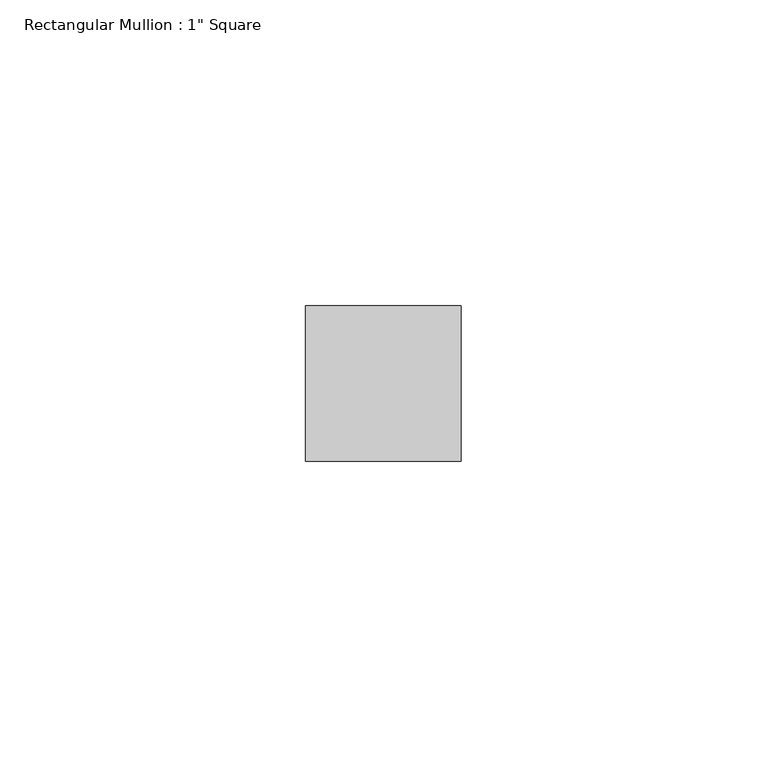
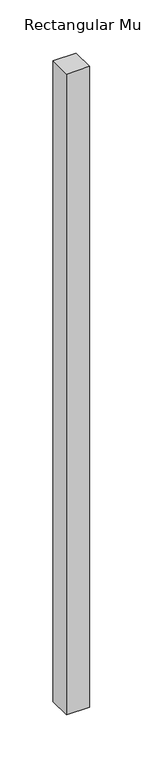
"""IFC4 building model written with IfcOpenShell, lengths in millimetres: member geometry."""

from ifc_helpers import new_model, si_unit, frame, origin, place, context, project, spatial, polyline, outline, extrude, source, transform, mapped, element, save


def member_bc21adc4(model_context):
    return source(origin(), model_context, "Body", "SweptSolid", [
        extrude(outline(polyline([(0.0, -19.05), (0.0, -44.45), (-25.4, -44.45), (-25.4, -19.05), (0.0, -19.05)])), frame((0.0, 0.0, -736.5999998), z_axis=(0.0, 0.0, 1.0), x_axis=(1.0, 0.0, 0.0)), (0.0, 0.0, 1.0), 736.5999998),
    ])


if __name__ == "__main__":
    model = new_model("IFC4")
    model_context = context("Model", 3, world=origin())
    ifc_project = project(units=[si_unit("LENGTHUNIT", "METRE", prefix="MILLI")], contexts=[model_context])
    site = spatial("IfcSite", under=ifc_project)
    building = spatial("IfcBuilding", under=site)
    placement = place(None, origin())
    member_shape = member_bc21adc4(model_context)
    element("IfcMember", 1, ObjectType="Rectangular Mullion : 1\" Square", at=placement, inside=building, context=model_context, shape_type="MappedRepresentation", body=[
        mapped(member_shape, transform((0.0, 0.0, 0.0), x_axis=(1.0, 0.0, 0.0), y_axis=(0.0, 1.0, 0.0), z_axis=(0.0, 0.0, 1.0))),
    ])
    save(model, "model.ifc")
